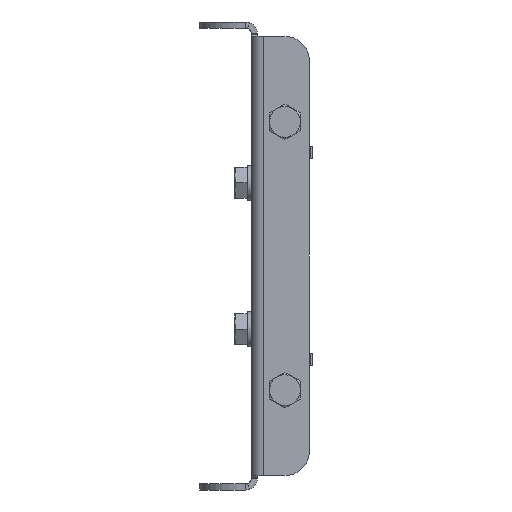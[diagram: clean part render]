
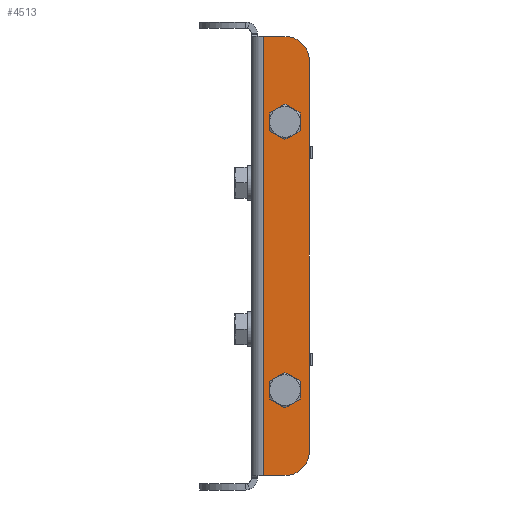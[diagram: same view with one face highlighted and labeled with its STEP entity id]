
A CAD part, left-side view. The second image highlights one B-rep face of the part: STEP entity #4513.
In plain terms, the highlighted planar face has unit normal (-1, 0, 0).
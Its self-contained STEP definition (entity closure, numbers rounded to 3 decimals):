
#3639=FACE_BOUND('',#5541,.T.);
#3640=FACE_BOUND('',#5542,.T.);
#3641=FACE_BOUND('',#5543,.T.);
#4113=PLANE('',#11061);
#4513=ADVANCED_FACE('',(#3639,#3640,#3641),#4113,.F.);
#5541=EDGE_LOOP('',(#8112,#8113,#8114,#8115,#8116,#8117));
#5542=EDGE_LOOP('',(#8118));
#5543=EDGE_LOOP('',(#8119));
#5993=LINE('',#15912,#6417);
#5997=LINE('',#15926,#6421);
#6002=LINE('',#15948,#6426);
#6003=LINE('',#15950,#6427);
#6417=VECTOR('',#12738,1.);
#6421=VECTOR('',#12750,1.);
#6426=VECTOR('',#12777,1.);
#6427=VECTOR('',#12780,1.);
#8112=ORIENTED_EDGE('',*,*,#9936,.F.);
#8113=ORIENTED_EDGE('',*,*,#9954,.T.);
#8114=ORIENTED_EDGE('',*,*,#9938,.T.);
#8115=ORIENTED_EDGE('',*,*,#9942,.T.);
#8116=ORIENTED_EDGE('',*,*,#9945,.F.);
#8117=ORIENTED_EDGE('',*,*,#9953,.F.);
#8118=ORIENTED_EDGE('',*,*,#9948,.T.);
#8119=ORIENTED_EDGE('',*,*,#9950,.F.);
#9011=VERTEX_POINT('',#15899);
#9013=VERTEX_POINT('',#15905);
#9015=VERTEX_POINT('',#15915);
#9017=VERTEX_POINT('',#15918);
#9019=VERTEX_POINT('',#15924);
#9021=VERTEX_POINT('',#15930);
#9024=VERTEX_POINT('',#15938);
#9026=VERTEX_POINT('',#15943);
#9936=EDGE_CURVE('',#9011,#9013,#5993,.T.);
#9938=EDGE_CURVE('',#9017,#9015,#10379,.T.);
#9942=EDGE_CURVE('',#9015,#9019,#5997,.T.);
#9945=EDGE_CURVE('',#9021,#9019,#10381,.T.);
#9948=EDGE_CURVE('',#9024,#9024,#10384,.T.);
#9950=EDGE_CURVE('',#9026,#9026,#10386,.T.);
#9953=EDGE_CURVE('',#9013,#9021,#6002,.T.);
#9954=EDGE_CURVE('',#9011,#9017,#6003,.T.);
#10379=CIRCLE('',#11046,12.7);
#10381=CIRCLE('',#11050,12.7);
#10384=CIRCLE('',#11054,5.461);
#10386=CIRCLE('',#11057,5.461);
#11046=AXIS2_PLACEMENT_3D('',#15917,#12742,#12743);
#11050=AXIS2_PLACEMENT_3D('',#15932,#12755,#12756);
#11054=AXIS2_PLACEMENT_3D('',#15937,#12763,#12764);
#11057=AXIS2_PLACEMENT_3D('',#15942,#12769,#12770);
#11061=AXIS2_PLACEMENT_3D('',#15951,#12781,#12782);
#12738=DIRECTION('',(0.,0.,1.));
#12742=DIRECTION('',(-1.,0.,0.));
#12743=DIRECTION('',(0.,1.,0.));
#12750=DIRECTION('',(0.,0.,1.));
#12755=DIRECTION('',(1.,0.,0.));
#12756=DIRECTION('',(0.,-1.,0.));
#12763=DIRECTION('',(1.,0.,0.));
#12764=DIRECTION('',(0.,1.,0.));
#12769=DIRECTION('',(-1.,0.,0.));
#12770=DIRECTION('',(0.,-1.,0.));
#12777=DIRECTION('',(0.,-1.,0.));
#12780=DIRECTION('',(0.,-1.,0.));
#12781=DIRECTION('',(1.,0.,0.));
#12782=DIRECTION('',(0.,1.,0.));
#15899=CARTESIAN_POINT('',(-45.641,98.425,1675.206));
#15905=CARTESIAN_POINT('',(-45.641,98.425,1903.806));
#15912=CARTESIAN_POINT('',(-45.641,98.425,1633.313));
#15915=CARTESIAN_POINT('',(-45.641,74.613,1687.906));
#15917=CARTESIAN_POINT('',(-45.641,87.313,1687.906));
#15918=CARTESIAN_POINT('',(-45.641,87.313,1675.206));
#15924=CARTESIAN_POINT('',(-45.641,74.613,1891.106));
#15926=CARTESIAN_POINT('',(-45.641,74.613,1633.313));
#15930=CARTESIAN_POINT('',(-45.641,87.313,1903.806));
#15932=CARTESIAN_POINT('',(-45.641,87.313,1891.106));
#15937=CARTESIAN_POINT('',(-45.641,87.313,1719.656));
#15938=CARTESIAN_POINT('',(-45.641,92.774,1719.656));
#15942=CARTESIAN_POINT('',(-45.641,87.313,1859.356));
#15943=CARTESIAN_POINT('',(-45.641,81.852,1859.356));
#15948=CARTESIAN_POINT('',(-45.641,38.171,1903.806));
#15950=CARTESIAN_POINT('',(-45.641,38.171,1675.206));
#15951=CARTESIAN_POINT('',(-45.641,38.171,1633.313));
